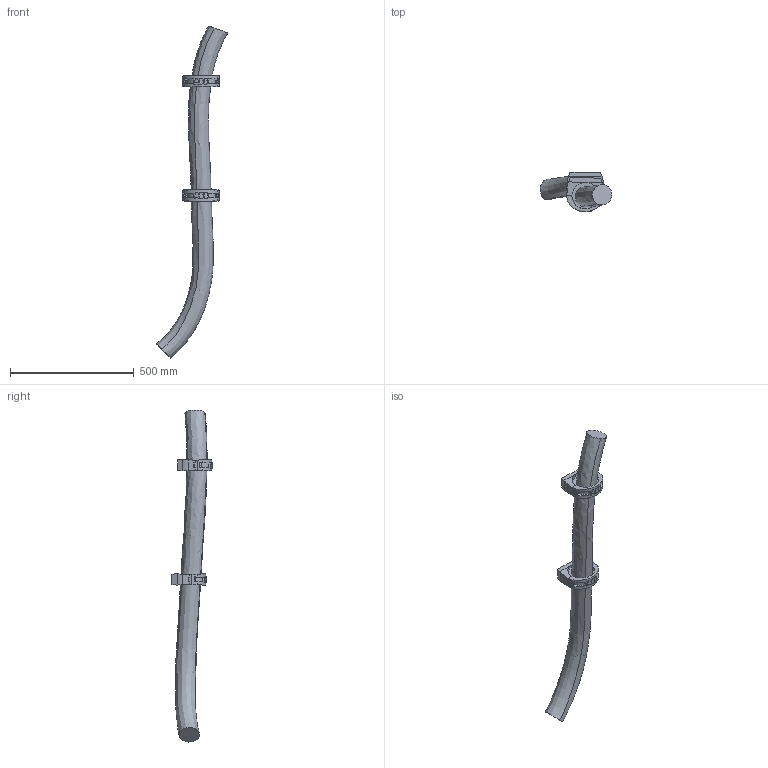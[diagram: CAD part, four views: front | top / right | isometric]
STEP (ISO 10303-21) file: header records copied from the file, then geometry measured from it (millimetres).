
FILE_DESCRIPTION (( 'STEP AP214' ), '1' );
FILE_NAME ('IRB6720-LID-SW_140kg-320_OC_00_LINK02_CABLE.step', '2026-06-10T12:08:08', ( '' ), ( '' ), 'SwSTEP 2.0', 'SolidWorks 2024', '' );
FILE_SCHEMA (( 'AUTOMOTIVE_DESIGN' ));
Length unit declared in the file: millimetre
Products named in the file (1): IRB6720-LID-SW_140kg-320_OC_00_LINK02_CABLE
Bounding box: 289.26 x 162.17 x 1343.22 mm (x, y, z)
Volume: 8052759.5 mm3; surface area: 475442.7 mm2
Topology: 1 solids, 1 shells, 206 faces, 542 edges, 352 vertices
Faces by surface type: plane 132, cylinder 52, bspline 14, cone 8
Entity records: 11363 total; most frequent: CARTESIAN_POINT 6471, ORIENTED_EDGE 1084, DIRECTION 918, EDGE_CURVE 542, VERTEX_POINT 352, VECTOR 316, LINE 316, AXIS2_PLACEMENT_3D 301
